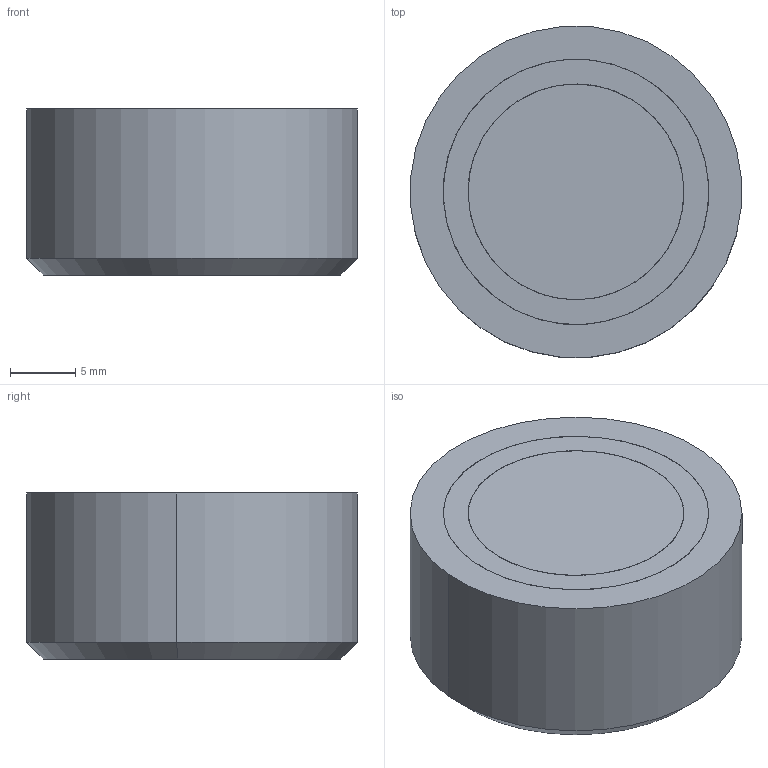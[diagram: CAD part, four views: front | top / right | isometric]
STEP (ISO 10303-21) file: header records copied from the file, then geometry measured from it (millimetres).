
FILE_DESCRIPTION (( 'STEP AP203' ), '1' );
FILE_NAME ('A1000.STEP', '2018-08-17T19:29:09', ( '' ), ( '' ), 'SwSTEP 2.0', 'SolidWorks 2015', '' );
FILE_SCHEMA (( 'CONFIG_CONTROL_DESIGN' ));
Length unit declared in the file: inch
Products named in the file (1): A1000
Bounding box: 25.32 x 25.32 x 12.7 mm (x, y, z)
Volume: 6281.3 mm3; surface area: 4991.2 mm2
Topology: 3 solids, 3 shells, 25 faces, 50 edges, 31 vertices
Faces by surface type: cylinder 14, plane 7, cone 4
Entity records: 731 total; most frequent: DIRECTION 130, CARTESIAN_POINT 105, ORIENTED_EDGE 96, AXIS2_PLACEMENT_3D 56, EDGE_CURVE 48, VERTEX_POINT 31, EDGE_LOOP 31, CIRCLE 30
